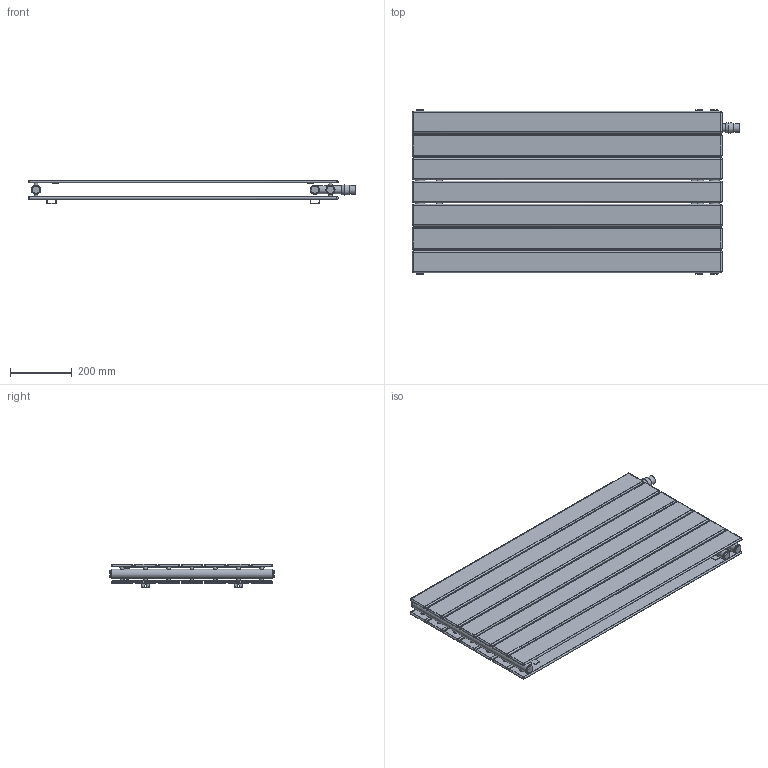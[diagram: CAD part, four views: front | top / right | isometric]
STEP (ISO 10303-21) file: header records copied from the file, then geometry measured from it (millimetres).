
FILE_DESCRIPTION(/* description */ (''),/* implementation_level */ '2;1');
FILE_NAME(/* name */ 'C:\Grzejniki\13DLUXRAD\pokojowe\NIAGARA\to\NIAGARA PODWÓJNA POZIOMA Z WKŁADKĄ TERMOSTATYCZNĄ 520x1000.iam.stp',/* time_stamp */ '2016-06-28T17:33:39+02:00',/* author */ ('m.szydziak'),/* organization */ (''),/* preprocessor_version */ 'ST-DEVELOPER v16.5',/* originating_system */ 'Autodesk Inventor 2017',/* authorisation */ '');
FILE_SCHEMA (('AUTOMOTIVE_DESIGN { 1 0 10303 214 3 1 1 }'));
Length unit declared in the file: millimetre
Products named in the file (9): NIAGARA PODWÓJNA POZIOMA Z WKŁADKĄ TERMOSTA
TYCZNĄ 520x1000; NIAGARA PODWÓJNA 1000x520; 70x8x1,2x1004; michałek; poprzeczka 470; ucho małe; fi30x1,5x520; Głowica Termostatyczna; korek
Assembly tree (61 placements, depth 3):
  NIAGARA PODWÓJNA POZIOMA Z WKŁADKĄ TERMOSTA
TYCZNĄ 520x1000
    NIAGARA PODWÓJNA 1000x520
      fi30x1,5x520  x2
      70x8x1,2x1004  x14
      michałek  x28
      poprzeczka 470  x4
      ucho małe  x4
      korek  x4
    fi30x1,5x520
    Głowica Termostatyczna
    korek  x2
Bounding box: 1056.85 x 532 x 75 mm (x, y, z)
Volume: 2864320.2 mm3; surface area: 4496763 mm2
Topology: 60 solids, 60 shells, 794 faces, 1767 edges, 1077 vertices
Faces by surface type: plane 368, cylinder 292, sphere 112, bspline 16, torus 4, cone 2
Full cylindrical faces by diameter (mm): 8 x28, 9 x28, 10 x28, 11.5 x28, 18.631 x6, 24 x6, 25 x1, 27 x3, 28 x1, 30 x3
Entity records: 3952 total; most frequent: CARTESIAN_POINT 929, DIRECTION 654, ORIENTED_EDGE 452, AXIS2_PLACEMENT_3D 265, EDGE_CURVE 226, VERTEX_POINT 150, EDGE_LOOP 142, LINE 124
